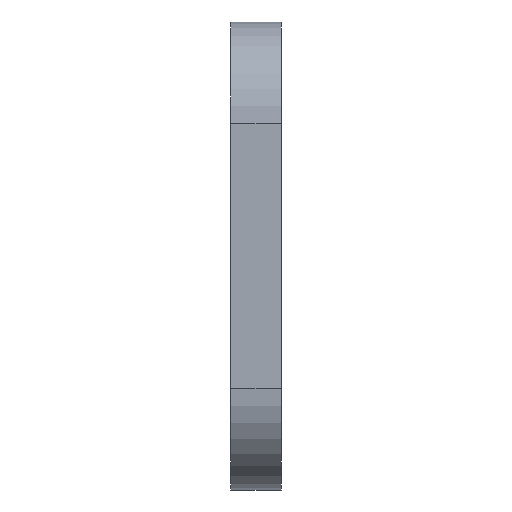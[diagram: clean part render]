
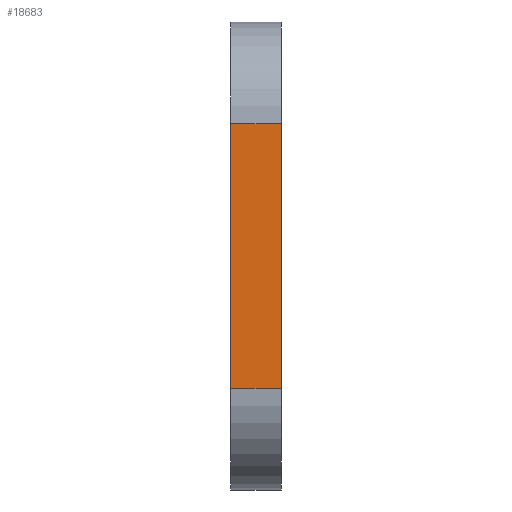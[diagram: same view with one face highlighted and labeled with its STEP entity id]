
A CAD part, left-side view. The second image highlights one B-rep face of the part: STEP entity #18683.
In plain terms, the highlighted planar face has unit normal (-1, 0, 0).
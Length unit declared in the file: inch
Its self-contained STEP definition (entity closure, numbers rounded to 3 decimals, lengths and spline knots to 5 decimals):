
#468 = EDGE_LOOP ( 'NONE', ( #12421, #12422, #12423, #12424 ) ) ;
#648 = VERTEX_POINT ( 'NONE', #1334 ) ;
#1184 = CARTESIAN_POINT ( 'NONE',  ( -1.15, 0., -0.65 ) ) ;
#1284 = VERTEX_POINT ( 'NONE', #1184 ) ;
#1334 = CARTESIAN_POINT ( 'NONE',  ( -1.15, 0., 0.65 ) ) ;
#2364 = FACE_OUTER_BOUND ( 'NONE', #468, .T. ) ;
#5516 = VECTOR ( 'NONE', #7490, 39.37008 ) ;
#5879 = AXIS2_PLACEMENT_3D ( 'NONE', #15884, #15885, #15886 ) ;
#7490 = DIRECTION ( 'NONE',  ( 0., 0., 1. ) ) ;
#7491 = CARTESIAN_POINT ( 'NONE',  ( -1.15, 0., 1.15 ) ) ;
#8095 = CARTESIAN_POINT ( 'NONE',  ( -1.15, 0.25, -0.65 ) ) ;
#8131 = CARTESIAN_POINT ( 'NONE',  ( -1.15, 0.25, 0.65 ) ) ;
#9310 = CARTESIAN_POINT ( 'NONE',  ( -1.15, 0.25, 1.15 ) ) ;
#9312 = DIRECTION ( 'NONE',  ( 0., 0., 1. ) ) ;
#9313 = CARTESIAN_POINT ( 'NONE',  ( -1.15, 0.25, -0.65 ) ) ;
#9314 = DIRECTION ( 'NONE',  ( 0., -1., 0. ) ) ;
#9315 = CARTESIAN_POINT ( 'NONE',  ( -1.15, 0.25, 0.65 ) ) ;
#9316 = DIRECTION ( 'NONE',  ( 0., 1., 0. ) ) ;
#12421 = ORIENTED_EDGE ( 'NONE', *, *, #23046, .F. ) ;
#12422 = ORIENTED_EDGE ( 'NONE', *, *, #23047, .T. ) ;
#12423 = ORIENTED_EDGE ( 'NONE', *, *, #14912, .T. ) ;
#12424 = ORIENTED_EDGE ( 'NONE', *, *, #23048, .T. ) ;
#14728 = VERTEX_POINT ( 'NONE', #8131 ) ;
#14754 = VERTEX_POINT ( 'NONE', #8095 ) ;
#14912 = EDGE_CURVE ( 'NONE', #1284, #648, #19959, .T. ) ;
#15883 = PLANE ( 'NONE',  #5879 ) ;
#15884 = CARTESIAN_POINT ( 'NONE',  ( -1.15, 0.25, 1.15 ) ) ;
#15885 = DIRECTION ( 'NONE',  ( 1., 0., 0. ) ) ;
#15886 = DIRECTION ( 'NONE',  ( 0., 0., -1. ) ) ;
#18683 = ADVANCED_FACE ( 'NONE', ( #2364 ), #15883, .F. ) ;
#19959 = LINE ( 'NONE', #7491, #5516 ) ;
#20901 = LINE ( 'NONE', #9310, #20902 ) ;
#20902 = VECTOR ( 'NONE', #9312, 39.37008 ) ;
#20903 = LINE ( 'NONE', #9313, #20904 ) ;
#20904 = VECTOR ( 'NONE', #9314, 39.37008 ) ;
#20905 = LINE ( 'NONE', #9315, #20906 ) ;
#20906 = VECTOR ( 'NONE', #9316, 39.37008 ) ;
#23046 = EDGE_CURVE ( 'NONE', #14754, #14728, #20901, .T. ) ;
#23047 = EDGE_CURVE ( 'NONE', #14754, #1284, #20903, .T. ) ;
#23048 = EDGE_CURVE ( 'NONE', #648, #14728, #20905, .T. ) ;
